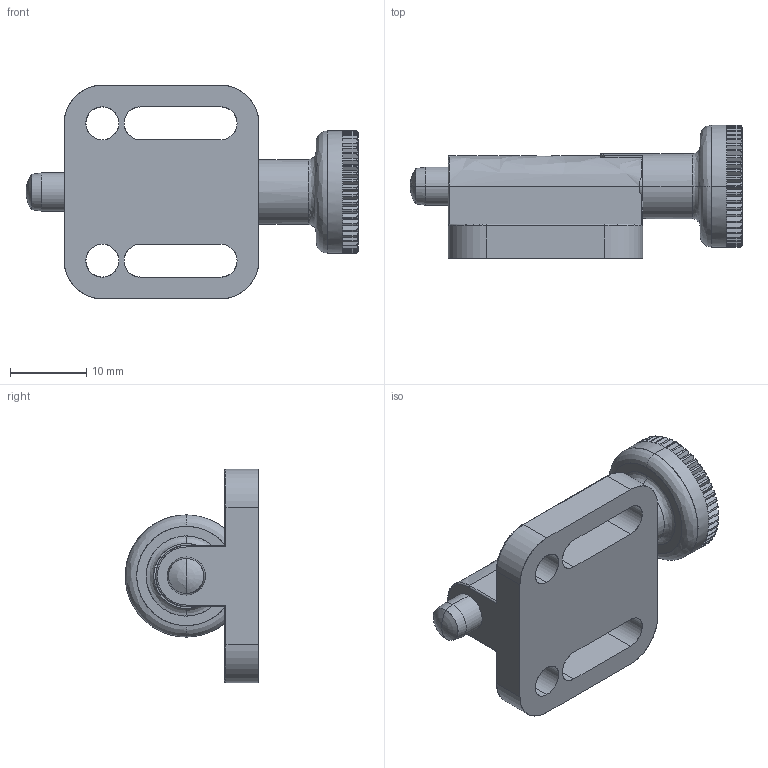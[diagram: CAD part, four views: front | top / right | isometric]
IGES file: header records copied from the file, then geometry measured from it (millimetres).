
Start section: SolidWorks IGES file using analytic representation for surfaces
Global section: file name: C:\HEMSIDA\cad\SLDPRT_2007\gn417\\gn417c_5.igs; native system: SolidWorks 2007; preprocessor: SolidWorks 2007; author: Administrator; date: 070919.153013; units: millimetre
Bounding box: 43.5 x 17.5 x 28 mm (x, y, z)
Surface area: 4226.8 mm2 (no closed solid volume)
Topology: 0 solids, 0 shells, 288 faces, 3095 edges, 3092 vertices
Faces by surface type: bspline 245, revolution 43
